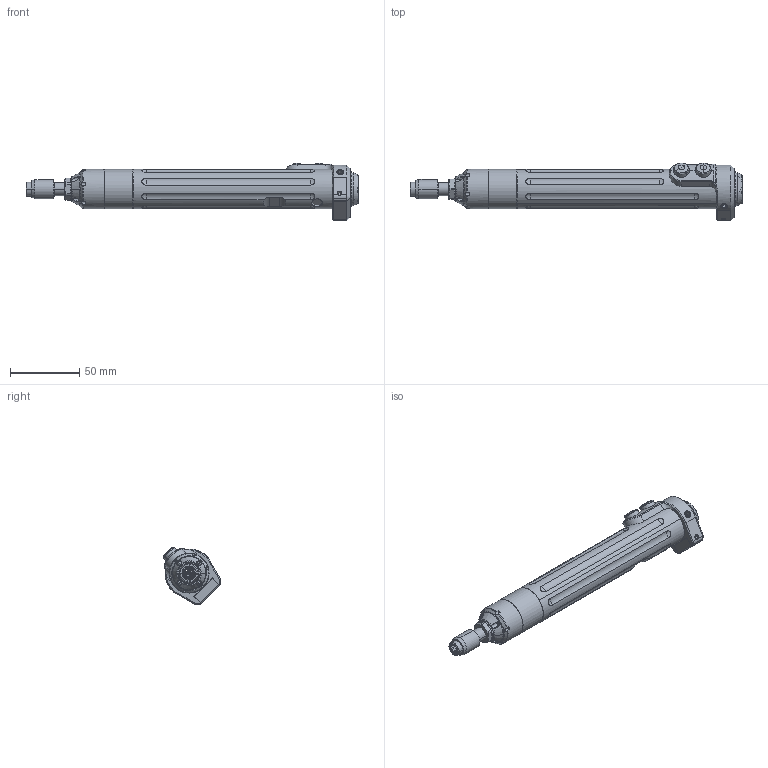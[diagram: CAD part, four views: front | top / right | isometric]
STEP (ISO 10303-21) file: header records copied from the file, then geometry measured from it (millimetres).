
FILE_DESCRIPTION (( 'STEP AP203' ), '1' );
FILE_NAME ('ASG-SD2500-35PL.STEP', '2011-07-21T13:47:33', ( '' ), ( '' ), 'SwSTEP 2.0', 'SolidWorks 2011', '' );
FILE_SCHEMA (( 'CONFIG_CONTROL_DESIGN' ));
Length unit declared in the file: inch
Products named in the file (1): ASG-SD2500-35PL
Bounding box: 240.39 x 41.87 x 41.89 mm (x, y, z)
Surface area: 32627.5 mm2 (no closed solid volume)
Topology: 0 solids, 26 shells, 452 faces, 1287 edges, 841 vertices
Faces by surface type: cylinder 154, plane 103, torus 77, cone 57, bspline 49, sphere 12
Entity records: 19039 total; most frequent: CARTESIAN_POINT 7647, DIRECTION 2371, ORIENTED_EDGE 2276, EDGE_CURVE 1269, AXIS2_PLACEMENT_3D 987, VERTEX_POINT 835, CIRCLE 583, EDGE_LOOP 514
